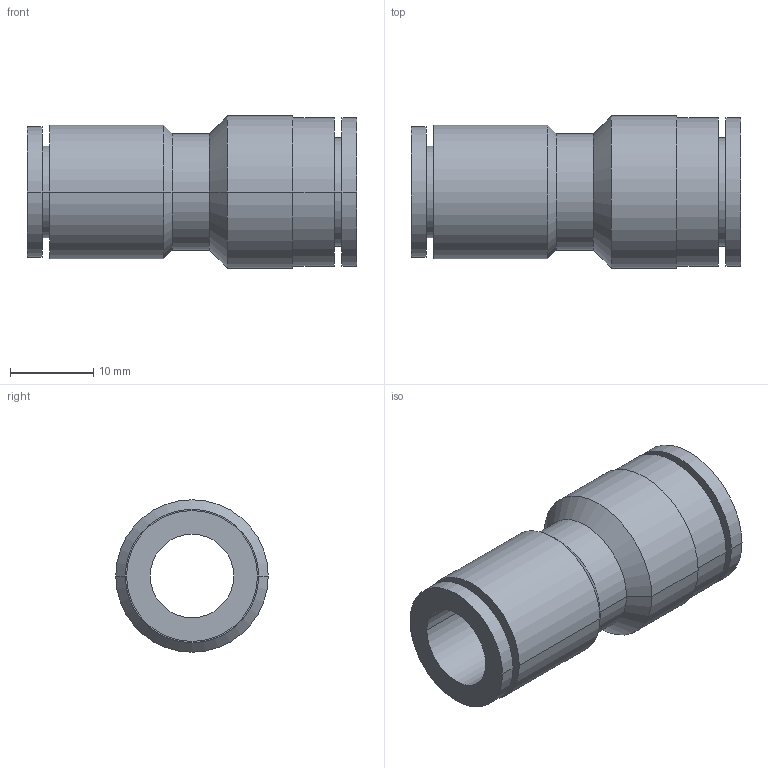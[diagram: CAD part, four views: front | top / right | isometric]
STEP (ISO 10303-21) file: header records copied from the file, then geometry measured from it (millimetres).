
FILE_DESCRIPTION((''),'2;1');
FILE_NAME('TKC-PG10-12','2025-10-29T14:16:28',('EMC05279'),(''),'CREO PARAMETRIC BY PTC INC, 2019010','CREO PARAMETRIC BY PTC INC, 2019010','');
FILE_SCHEMA(('CONFIG_CONTROL_DESIGN'));
Length unit declared in the file: millimetre
Products named in the file (1): TKC-PG10-12
Bounding box: 39.6 x 18.3 x 18.3 mm (x, y, z)
Volume: 4800.9 mm3; surface area: 4160.9 mm2
Topology: 1 solids, 1 shells, 32 faces, 64 edges, 40 vertices
Faces by surface type: cylinder 20, plane 8, cone 4
Entity records: 886 total; most frequent: DIRECTION 168, CARTESIAN_POINT 136, ORIENTED_EDGE 128, AXIS2_PLACEMENT_3D 72, EDGE_CURVE 64, VERTEX_POINT 40, EDGE_LOOP 40, CIRCLE 40
